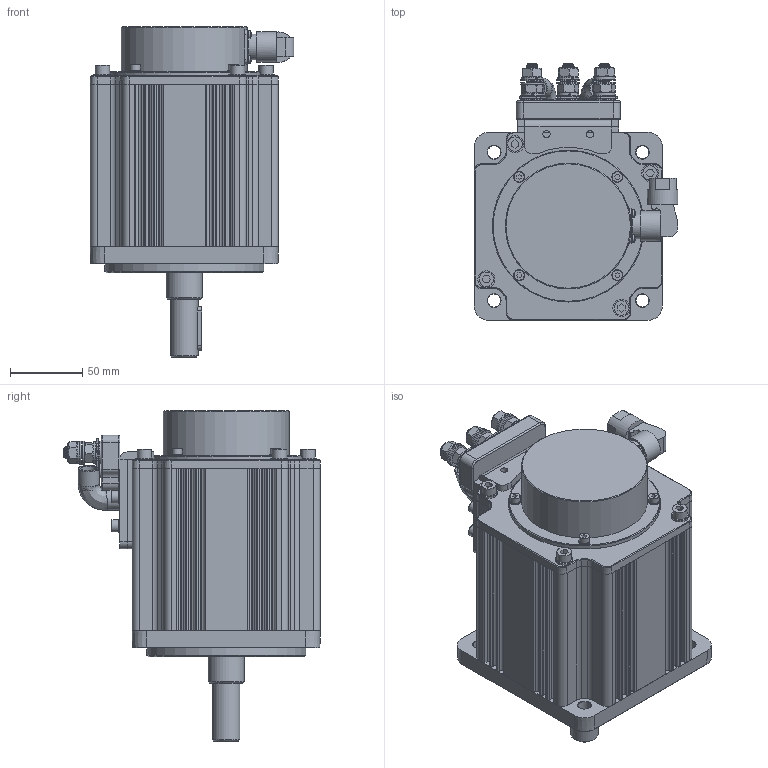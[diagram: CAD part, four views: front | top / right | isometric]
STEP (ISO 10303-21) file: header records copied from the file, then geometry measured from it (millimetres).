
FILE_DESCRIPTION (( 'STEP AP214' ), '1' );
FILE_NAME ('BL130N,A19X64_5_3D-02-S0450.STEP', '2019-08-15T09:47:08', ( '' ), ( '' ), 'SwSTEP 2.0', 'SolidWorks 2016', '' );
FILE_SCHEMA (( 'AUTOMOTIVE_DESIGN' ));
Length unit declared in the file: millimetre
Products named in the file (3): BL130N,A19X64_5_帶通訊接頭; BL130N,A19X64_5_3D-02-S0450; BL130N配件-XMV1-AP-10S-M-C
Assembly tree (2 placements, depth 2):
  BL130N,A19X64_5_3D-02-S0450
    BL130N,A19X64_5_帶通訊接頭
    BL130N配件-XMV1-AP-10S-M-C
Bounding box: 140.7 x 177.3 x 228.5 mm (x, y, z)
Volume: 1158890.8 mm3; surface area: 368730.6 mm2
Topology: 87 solids, 87 shells, 2093 faces, 4928 edges, 3123 vertices
Faces by surface type: plane 1112, cylinder 553, cone 232, bspline 196
Full cylindrical faces by diameter (mm): 1 x20, 1.25 x2, 2.387 x4, 2.5 x6, 3 x5, 3.2 x4, 3.3 x4, 4 x4, 4.2 x4, 4.5 x4, 4.773 x10, 5 x19, 5.3 x4, 5.5 x4, 6 x10, 6.5 x4, 6.6 x2, 6.85 x6, 7 x4, 7.5 x3, 7.6 x1, 8 x2, 8.3 x12, 8.5 x7, 9 x4, 9.8 x1, 10 x10, 11 x8, 11.5 x5, 12 x4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
Entity records: 95415 total; most frequent: CARTESIAN_POINT 27454, DIRECTION 9200, ORIENTED_EDGE 8512, EDGE_CURVE 4256, AXIS2_PLACEMENT_3D 3423, VERTEX_POINT 2933, EDGE_LOOP 2835, FACE_OUTER_BOUND 2355
